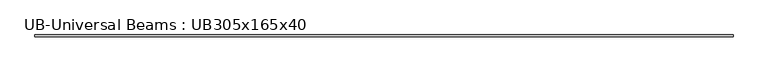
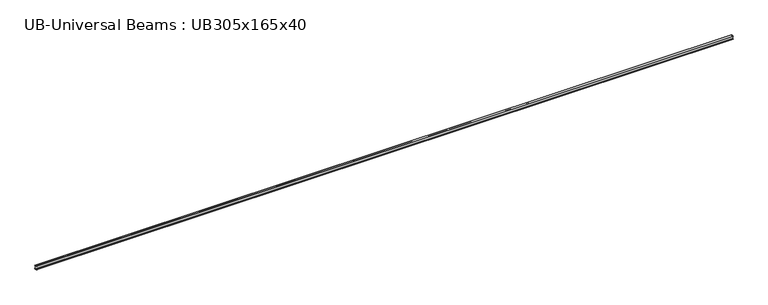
"""IFC4 building model written with IfcOpenShell, lengths in millimetres: beam geometry, UB-Universal Beams : UB305x165x40."""

from ifc_helpers import new_model, si_unit, point, frame, frame_2d, origin, place, context, project, spatial, polyline, circle_curve, trimmed, segment, composite_curve, outline, extrude, source, transform, mapped, element, save


def ub_universal_beams_ub305x165x40_7039ebc4(model_context):
    return source(origin(), model_context, "Body", "SweptSolid", [
        extrude(outline(composite_curve([segment(polyline([(82.5, -141.5), (82.5, -151.7), (-82.5, -151.7), (-82.5, -141.5), (-11.9, -141.5)]), True, "CONTINUOUS"), segment(trimmed(circle_curve(frame_2d((-11.9, -132.6)), 8.9), [point((-11.9, -141.5))], [point((-3.0, -132.6))], True, "CARTESIAN"), True, "CONTINUOUS"), segment(polyline([(-3.0, -132.6), (-3.0, 132.6)]), True, "CONTINUOUS"), segment(trimmed(circle_curve(frame_2d((-11.9, 132.6)), 8.9), [point((-3.0, 132.6))], [point((-11.9, 141.5))], True, "CARTESIAN"), True, "CONTINUOUS"), segment(polyline([(-11.9, 141.5), (-82.5, 141.5), (-82.5, 151.7), (82.5, 151.7), (82.5, 141.5), (11.9, 141.5)]), True, "CONTINUOUS"), segment(trimmed(circle_curve(frame_2d((11.9, 132.6)), 8.9), [point((11.9, 141.5))], [point((3.0, 132.6))], True, "CARTESIAN"), True, "CONTINUOUS"), segment(polyline([(3.0, 132.6), (3.0, -132.6)]), True, "CONTINUOUS"), segment(trimmed(circle_curve(frame_2d((11.9, -132.6)), 8.9), [point((3.0, -132.6))], [point((11.9, -141.5))], True, "CARTESIAN"), True, "CONTINUOUS"), segment(polyline([(11.9, -141.5), (82.5, -141.5)]), True, "CONTINUOUS")], self_intersect=False)), frame((-29833.3, 0.0, 0.0), z_axis=(1.0, 0.0, 0.0), x_axis=(0.0, 1.0, 0.0)), (0.0, 0.0, 1.0), 59666.6),
    ])


if __name__ == "__main__":
    model = new_model("IFC4")
    model_context = context("Model", 3, world=origin())
    ifc_project = project(units=[si_unit("LENGTHUNIT", "METRE", prefix="MILLI")], contexts=[model_context])
    site = spatial("IfcSite", under=ifc_project)
    building = spatial("IfcBuilding", under=site)
    placement = place(None, origin())
    ub_universal_beams_ub305x165x40_shape = ub_universal_beams_ub305x165x40_7039ebc4(model_context)
    element("IfcBeam", 1, ObjectType="UB-Universal Beams : UB305x165x40", at=placement, inside=building, context=model_context, shape_type="MappedRepresentation", body=[
        mapped(ub_universal_beams_ub305x165x40_shape, transform((0.0, 0.0, 0.0), x_axis=(1.0, 0.0, 0.0), y_axis=(0.0, 1.0, 0.0), z_axis=(0.0, 0.0, 1.0))),
    ])
    save(model, "model.ifc")
